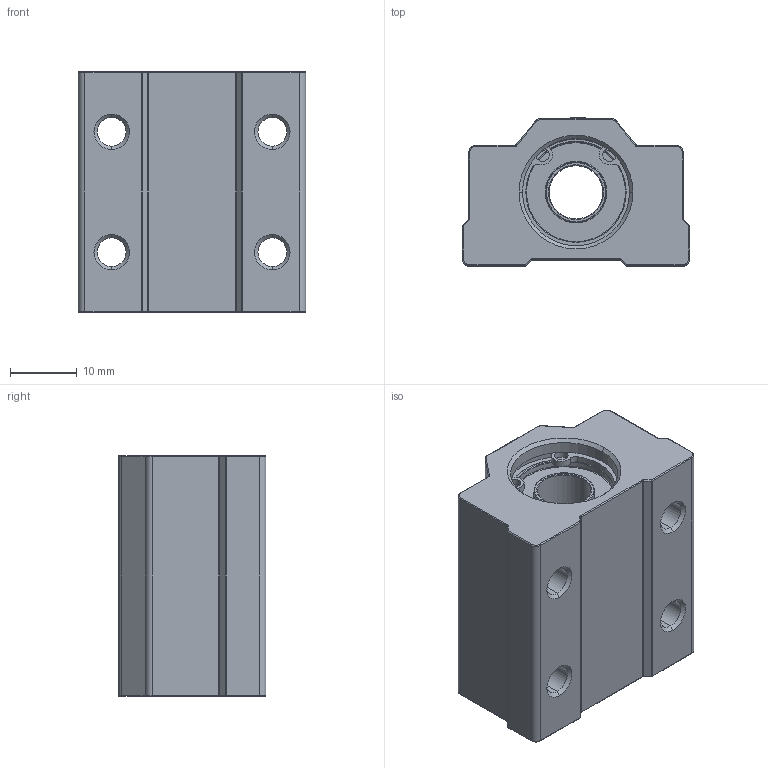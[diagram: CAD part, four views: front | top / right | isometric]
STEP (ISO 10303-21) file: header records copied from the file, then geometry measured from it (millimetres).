
FILE_DESCRIPTION (( 'STEP AP214' ), '1' );
FILE_NAME ('SC8UU.STEP', '2020-09-21T06:20:23', ( '' ), ( '' ), 'SwSTEP 2.0', 'SolidWorks 2018', '' );
FILE_SCHEMA (( 'AUTOMOTIVE_DESIGN' ));
Length unit declared in the file: millimetre
Products named in the file (4): SC8UU; SC8UU-03; SC8UU-02; SC8UU-01
Assembly tree (4 placements, depth 2):
  SC8UU
    SC8UU-01
    SC8UU-02
    SC8UU-03  x2
Bounding box: 34 x 22.1 x 36 mm (x, y, z)
Volume: 18642.6 mm3; surface area: 10584.7 mm2
Topology: 4 solids, 4 shells, 372 faces, 911 edges, 566 vertices
Faces by surface type: plane 150, cylinder 108, torus 48, bspline 38, cone 20, sphere 8
Entity records: 14278 total; most frequent: CARTESIAN_POINT 4108, ORIENTED_EDGE 1724, DIRECTION 1712, EDGE_CURVE 862, AXIS2_PLACEMENT_3D 602, VERTEX_POINT 536, VECTOR 508, LINE 508
